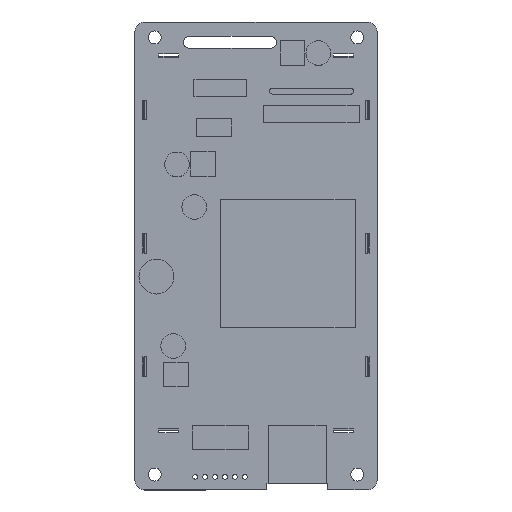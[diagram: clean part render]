
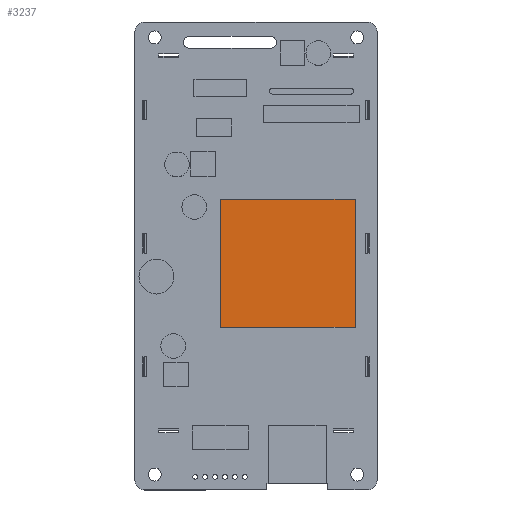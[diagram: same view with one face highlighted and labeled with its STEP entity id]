
A CAD part, top view. The second image highlights one B-rep face of the part: STEP entity #3237.
In plain terms, the highlighted planar face has unit normal (0, 0, 1).
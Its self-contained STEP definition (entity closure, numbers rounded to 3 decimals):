
#57 = CARTESIAN_POINT ( 'NONE',  ( 25.311, -18.225, 5.3 ) ) ;
#315 = VECTOR ( 'NONE', #4068, 1000. ) ;
#602 = DIRECTION ( 'NONE',  ( 0., 1., 0. ) ) ;
#969 = EDGE_LOOP ( 'NONE', ( #8394, #5789, #3901, #10468 ) ) ;
#1098 = DIRECTION ( 'NONE',  ( 0., -1., 0. ) ) ;
#1456 = CARTESIAN_POINT ( 'NONE',  ( -9.106, 14.541, 5.3 ) ) ;
#1478 = DIRECTION ( 'NONE',  ( 1., 0., 0. ) ) ;
#2247 = CARTESIAN_POINT ( 'NONE',  ( 25.311, -18.225, 5.3 ) ) ;
#2456 = LINE ( 'NONE', #2723, #7643 ) ;
#2723 = CARTESIAN_POINT ( 'NONE',  ( -9.106, 14.541, 5.3 ) ) ;
#3104 = LINE ( 'NONE', #8186, #315 ) ;
#3237 = ADVANCED_FACE ( 'NONE', ( #10913 ), #11891, .T. ) ;
#3901 = ORIENTED_EDGE ( 'NONE', *, *, #12008, .F. ) ;
#4068 = DIRECTION ( 'NONE',  ( -1., 0., 0. ) ) ;
#4582 = CARTESIAN_POINT ( 'NONE',  ( 25.311, 14.541, 5.3 ) ) ;
#4883 = VERTEX_POINT ( 'NONE', #7542 ) ;
#5578 = LINE ( 'NONE', #57, #7980 ) ;
#5789 = ORIENTED_EDGE ( 'NONE', *, *, #11930, .F. ) ;
#7542 = CARTESIAN_POINT ( 'NONE',  ( -9.106, -18.225, 5.3 ) ) ;
#7643 = VECTOR ( 'NONE', #602, 1000. ) ;
#7690 = CARTESIAN_POINT ( 'NONE',  ( 25.311, 14.541, 5.3 ) ) ;
#7811 = LINE ( 'NONE', #7690, #13217 ) ;
#7980 = VECTOR ( 'NONE', #1098, 1000. ) ;
#8186 = CARTESIAN_POINT ( 'NONE',  ( -9.106, -18.225, 5.3 ) ) ;
#8271 = VERTEX_POINT ( 'NONE', #1456 ) ;
#8349 = VERTEX_POINT ( 'NONE', #2247 ) ;
#8394 = ORIENTED_EDGE ( 'NONE', *, *, #11755, .F. ) ;
#10468 = ORIENTED_EDGE ( 'NONE', *, *, #12234, .F. ) ;
#10913 = FACE_OUTER_BOUND ( 'NONE', #969, .T. ) ;
#11442 = DIRECTION ( 'NONE',  ( 1., 0., 0. ) ) ;
#11451 = DIRECTION ( 'NONE',  ( 0., 0., 1. ) ) ;
#11485 = CARTESIAN_POINT ( 'NONE',  ( -30.925, 57.214, 5.3 ) ) ;
#11755 = EDGE_CURVE ( 'NONE', #12535, #8349, #5578, .T. ) ;
#11891 = PLANE ( 'NONE',  #13106 ) ;
#11930 = EDGE_CURVE ( 'NONE', #8271, #12535, #7811, .T. ) ;
#12008 = EDGE_CURVE ( 'NONE', #4883, #8271, #2456, .T. ) ;
#12234 = EDGE_CURVE ( 'NONE', #8349, #4883, #3104, .T. ) ;
#12535 = VERTEX_POINT ( 'NONE', #4582 ) ;
#13106 = AXIS2_PLACEMENT_3D ( 'NONE', #11485, #11451, #11442 ) ;
#13217 = VECTOR ( 'NONE', #1478, 1000. ) ;
